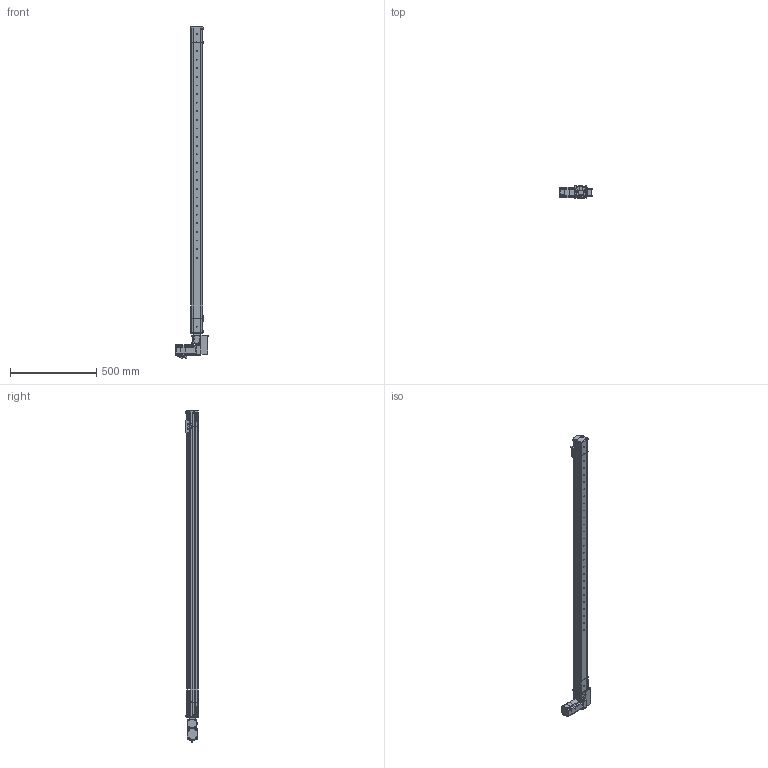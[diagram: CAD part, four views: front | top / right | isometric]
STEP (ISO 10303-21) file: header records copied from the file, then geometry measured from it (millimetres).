
FILE_DESCRIPTION (( 'STEP AP214' ), '1' );
FILE_NAME ('S07 TBN LH S1600.STEP', '2010-06-29T12:15:28', ( 'Conseil Régional Haute-Normandie' ), ( 'Conseil Régional Haute-Normandie' ), 'SwSTEP 2.0', 'SolidWorks 2010', '' );
FILE_SCHEMA (( 'AUTOMOTIVE_DESIGN' ));
Length unit declared in the file: millimetre
Products named in the file (41): vis M5 L16_Default; Chariot; guide; CHariot_Default; couroie tail_Default; vis M5 L12_Default; Poulie_Default; T皻e de poulie_Default; couvercle tail TB; Vis M5 L16-2_Default; Cvis M5 L30_Default; VisM3_Default; plaque de bout_Default; corp tail TB_Default; S07 TB tail (78)_Default; Conecteur2 60BLDC_Default; Conecteur 60BLDC_Default; Axe 60BLDC_Default; P4_Default; Course C L1600_Default; S07 TBN LH S1600; couvercle S07 course 1600 ; Couroie  course 1600_Default; Corp S07 course 1600_Default; plaque de bout LH_Default; corp moteur LH-RH(146)_Default; S07 LH(146)_Default; Poulie head_Default; cache t皻e axe_Default; couvercle moteur S07 TB; Pièce5^S07 LH(146); vis M5 L5_Default; cache t皻e_Default; GMB 60 90 310_Default; renvoi LH_Default; Plaque racord_Default; Couroie t皻e_Default; P3 90A_Default; P2 90A_Default; P1_Default
Assembly tree (80 placements, depth 4):
  S07 TBN LH S1600
    S07 TB tail (78)_Default
      vis M5 L12_Default  x10
      couroie tail_Default
      plaque de bout_Default
      couvercle tail TB
      corp tail TB_Default
      Poulie_Default
        Poulie_Default
        T皻e de poulie_Default
    Course C L1600_Default
      couvercle S07 course 1600 
      Corp S07 course 1600_Default
      Couroie  course 1600_Default
    CHariot_Default
      vis M5 L16_Default  x2
      guide
      Chariot
    S07 LH(146)_Default
      Cvis M5 L30_Default  x2
      vis M5 L12_Default  x6
      Vis M5 L16-2_Default  x8
      cache t皻e axe_Default
      vis M5 L5_Default  x6
      renvoi LH_Default
      cache t皻e_Default  x2
      Plaque racord_Default
      plaque de bout LH_Default
      corp moteur LH-RH(146)_Default
      Poulie head_Default
      couvercle moteur S07 TB
      GMB 60 90 310_Default
        VisM3_Default  x12
        Conecteur 60BLDC_Default
        P1_Default
        P3 90A_Default
        P2 90A_Default
        Conecteur2 60BLDC_Default
        Axe 60BLDC_Default
        P4_Default
      Couroie t皻e_Default
  Pièce5^S07 LH(146)
Bounding box: 190.2 x 72.2 x 1927 mm (x, y, z)
Volume: 3584904.3 mm3; surface area: 1572657 mm2
Topology: 102 solids, 102 shells, 3954 faces, 9834 edges, 6353 vertices
Faces by surface type: plane 2241, cylinder 783, bspline 677, cone 125, torus 124, sphere 4
Entity records: 168061 total; most frequent: CARTESIAN_POINT 75345, ORIENTED_EDGE 15580, DIRECTION 12461, EDGE_CURVE 7790, VERTEX_POINT 5141, LINE 5067, VECTOR 5067, AXIS2_PLACEMENT_3D 3697
